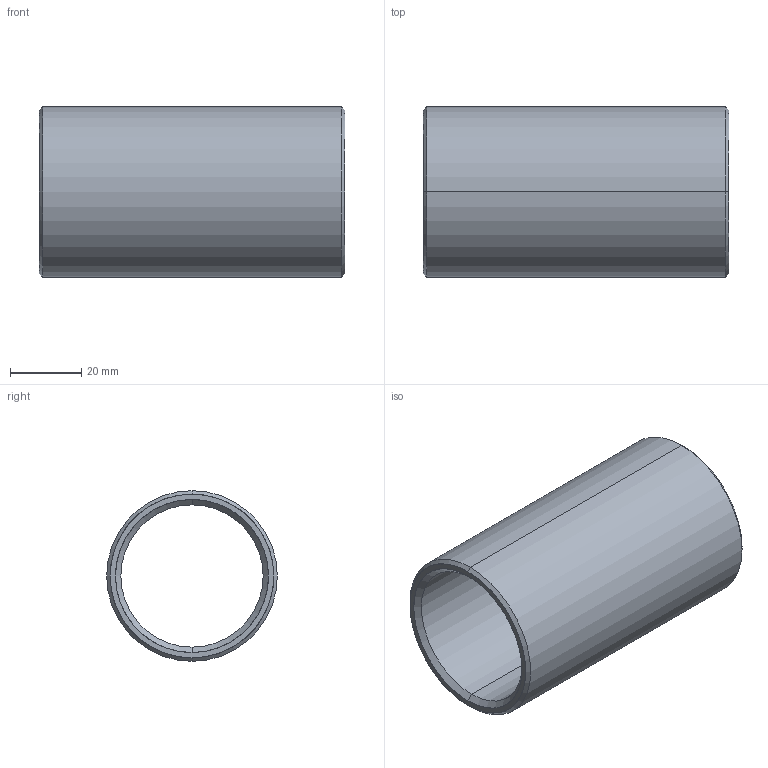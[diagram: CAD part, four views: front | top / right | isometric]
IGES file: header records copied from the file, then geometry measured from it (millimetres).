
Start section: START RECORD GO HERE.
Global section: file name: 352-40X86.igs; native system: DASSAULT SYSTEMES CATIA V5 R20 - www.3ds.com; preprocessor: CATIA Version 5 Release 20 ; author: Utente; organization: NB04-ASUS; date: 20210414.165210; units: millimetre
Bounding box: 86 x 48 x 48 mm (x, y, z)
Surface area: 24541.2 mm2 (no closed solid volume)
Topology: 0 solids, 0 shells, 14 faces, 88 edges, 88 vertices
Faces by surface type: revolution 12, plane 2
